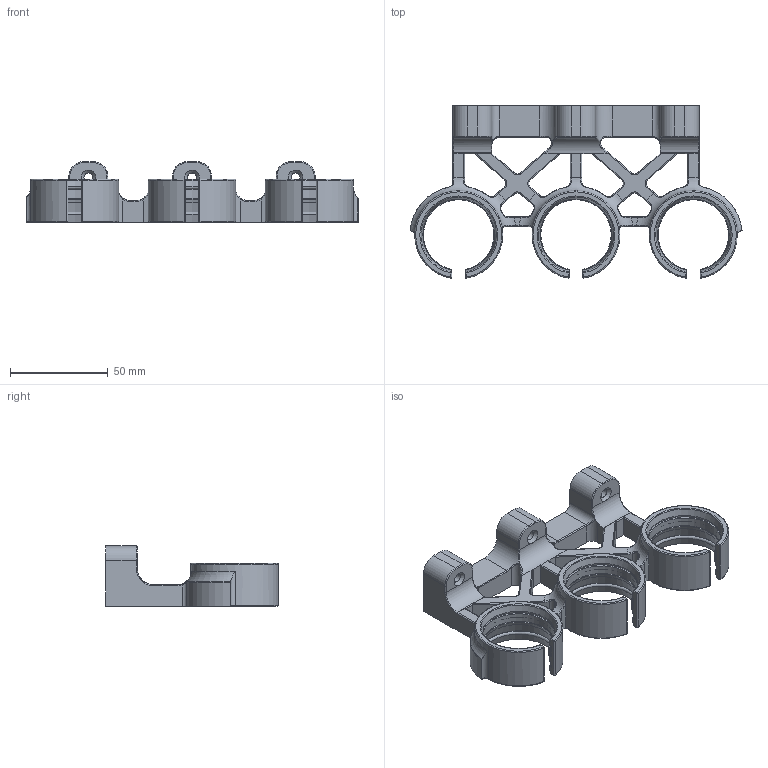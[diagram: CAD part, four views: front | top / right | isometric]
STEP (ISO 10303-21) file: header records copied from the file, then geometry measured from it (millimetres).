
FILE_DESCRIPTION(/* description */ (''),/* implementation_level */ '2;1');
FILE_NAME(/* name */ 'DysonBracket_x3 v13.step',/* time_stamp */ '2024-01-17T19:13:44Z',/* author */ (''),/* organization */ (''),/* preprocessor_version */ 'ST-DEVELOPER v20',/* originating_system */ 'Autodesk Translation Framework v12.14.0.127',/* authorisation */ '');
FILE_SCHEMA (('AUTOMOTIVE_DESIGN { 1 0 10303 214 3 1 1 }'));
Length unit declared in the file: millimetre
Products named in the file (3): DysonBracket_x3; Single Bracket; Combined Bracket
Assembly tree (2 placements, depth 2):
  DysonBracket_x3
    Single Bracket
    Combined Bracket
Bounding box: 169.81 x 88.13 x 31 mm (x, y, z)
Volume: 107153.8 mm3; surface area: 51476.1 mm2
Topology: 6 solids, 6 shells, 488 faces, 1250 edges, 763 vertices
Faces by surface type: cylinder 165, bspline 110, plane 104, torus 56, cone 27, sphere 26
Full cylindrical faces by diameter (mm): 4.5 x3
Entity records: 18534 total; most frequent: CARTESIAN_POINT 7305, ORIENTED_EDGE 2500, DIRECTION 2147, EDGE_CURVE 1250, AXIS2_PLACEMENT_3D 875, VERTEX_POINT 763, EDGE_LOOP 499, FACE_OUTER_BOUND 488
